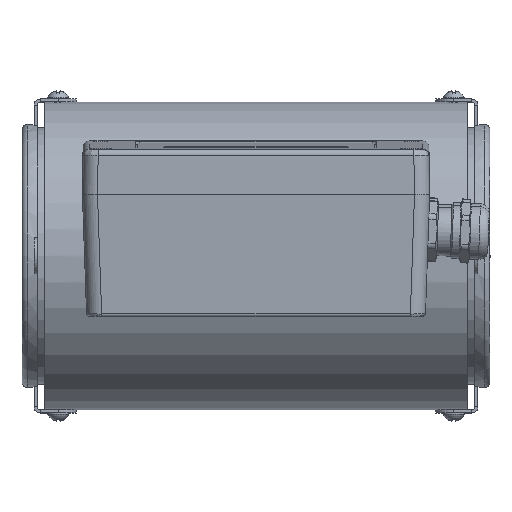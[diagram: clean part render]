
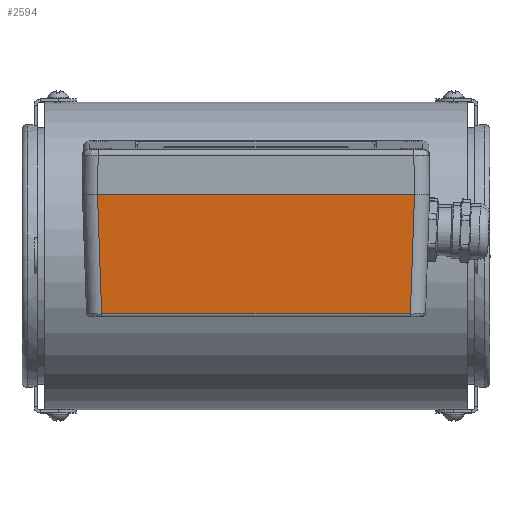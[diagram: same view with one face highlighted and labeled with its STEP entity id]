
A CAD part, top view. The second image highlights one B-rep face of the part: STEP entity #2594.
In plain terms, the highlighted planar face has unit normal (0, -0.07, 0.998).
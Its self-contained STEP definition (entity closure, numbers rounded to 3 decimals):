
#2594=ADVANCED_FACE('',(#10194),#10196,.T.);
#10194=FACE_BOUND('',#10195,.T.);
#10195=EDGE_LOOP('',(#23011,#23012,#23013,#23014,#23015,#23016));
#10196=PLANE('',#10197);
#10197=AXIS2_PLACEMENT_3D('',#10198,#10199,#10200);
#10198=CARTESIAN_POINT('',(-57.5,19.917,195.745));
#10199=DIRECTION('',(0.,-0.07,0.998));
#10200=DIRECTION('',(-1.,0.,0.));
#23011=ORIENTED_EDGE('',*,*,#26906,.F.);
#23012=ORIENTED_EDGE('',*,*,#26907,.T.);
#23013=ORIENTED_EDGE('',*,*,#26838,.F.);
#23014=ORIENTED_EDGE('',*,*,#26769,.F.);
#23015=ORIENTED_EDGE('',*,*,#26819,.F.);
#23016=ORIENTED_EDGE('',*,*,#26908,.T.);
#26769=EDGE_CURVE('',#29452,#29455,#29456,.T.);
#26819=EDGE_CURVE('',#29545,#29452,#29547,.T.);
#26838=EDGE_CURVE('',#29455,#29576,#29577,.T.);
#26906=EDGE_CURVE('',#29687,#29688,#29689,.F.);
#26907=EDGE_CURVE('',#29687,#29576,#29690,.T.);
#26908=EDGE_CURVE('',#29545,#29688,#29691,.T.);
#29452=VERTEX_POINT('',#36074);
#29455=VERTEX_POINT('',#36097);
#29456=LINE('',#36098,#36099);
#29545=VERTEX_POINT('',#36332);
#29547=LINE('',#36337,#36338);
#29576=VERTEX_POINT('',#36410);
#29577=LINE('',#36411,#36412);
#29687=VERTEX_POINT('',#36680);
#29688=VERTEX_POINT('',#36681);
#29689=LINE('',#36682,#36683);
#29690=LINE('',#36685,#36686);
#29691=LINE('',#36688,#36689);
#36074=CARTESIAN_POINT('',(51.122,-19.545,192.986));
#36097=CARTESIAN_POINT('',(-51.122,-19.545,192.986));
#36098=CARTESIAN_POINT('',(51.122,-19.545,192.986));
#36099=VECTOR('',#36100,1.);
#36100=DIRECTION('',(-1.,0.,0.));
#36332=CARTESIAN_POINT('',(52.503,19.917,195.745));
#36337=CARTESIAN_POINT('',(52.503,19.917,195.745));
#36338=VECTOR('',#36339,1.);
#36339=DIRECTION('',(-0.035,-0.997,-0.07));
#36410=CARTESIAN_POINT('',(-52.503,19.917,195.745));
#36411=CARTESIAN_POINT('',(-51.122,-19.545,192.986));
#36412=VECTOR('',#36413,1.);
#36413=DIRECTION('',(-0.035,0.997,0.07));
#36680=CARTESIAN_POINT('',(-52.501,19.917,195.745));
#36681=CARTESIAN_POINT('',(52.501,19.917,195.745));
#36682=CARTESIAN_POINT('',(52.501,19.917,195.745));
#36683=VECTOR('',#36684,1.);
#36684=DIRECTION('',(-1.,0.,0.));
#36685=CARTESIAN_POINT('',(-52.501,19.917,195.745));
#36686=VECTOR('',#36687,1.);
#36687=DIRECTION('',(-1.,0.,0.));
#36688=CARTESIAN_POINT('',(52.503,19.917,195.745));
#36689=VECTOR('',#36690,1.);
#36690=DIRECTION('',(-1.,0.,0.));
